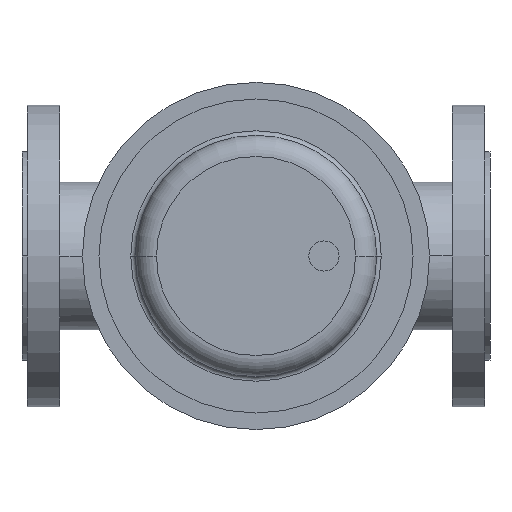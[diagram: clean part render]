
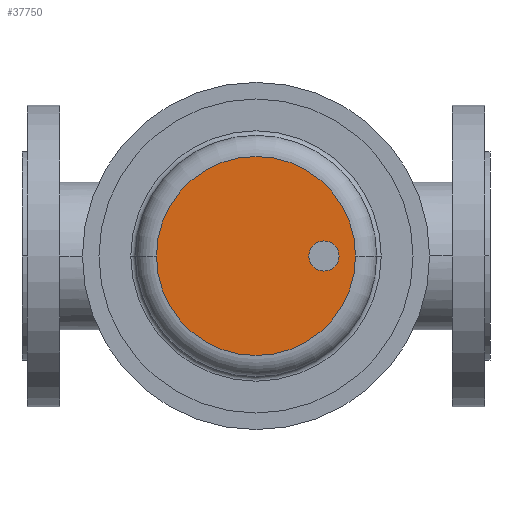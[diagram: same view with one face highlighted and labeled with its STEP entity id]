
A CAD part, front view. The second image highlights one B-rep face of the part: STEP entity #37750.
In plain terms, the highlighted planar face has unit normal (0, -1, 0).
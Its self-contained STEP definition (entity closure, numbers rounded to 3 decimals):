
#37210=CARTESIAN_POINT('',(220.93,-525.,0.));
#37220=VERTEX_POINT('',#37210);
#37250=CARTESIAN_POINT('',(155.,-525.,0.));
#37260=DIRECTION('',(0.,1.,0.));
#37270=DIRECTION('',(1.,0.,0.));
#37280=AXIS2_PLACEMENT_3D('',#37250,#37260,#37270);
#37290=CIRCLE('',#37280,65.93);
#37300=CARTESIAN_POINT('',(155.,-525.,65.93));
#37310=VERTEX_POINT('',#37300);
#37320=EDGE_CURVE('',#37310,#37220,#37290,.T.);
#37340=CARTESIAN_POINT('',(89.07,-525.,0.));
#37350=VERTEX_POINT('',#37340);
#37360=EDGE_CURVE('',#37350,#37310,#37290,.T.);
#37490=CARTESIAN_POINT('',(187.965,-525.,0.));
#37500=DIRECTION('',(0.,-1.,0.));
#37510=DIRECTION('',(-1.,0.,0.));
#37520=AXIS2_PLACEMENT_3D('',#37490,#37500,#37510);
#37530=PLANE('',#37520);
#37540=CARTESIAN_POINT('',(200.,-525.,0.));
#37550=DIRECTION('',(0.,1.,0.));
#37560=DIRECTION('',(1.,0.,0.));
#37570=AXIS2_PLACEMENT_3D('',#37540,#37550,#37560);
#37580=CIRCLE('',#37570,10.);
#37590=CARTESIAN_POINT('',(210.,-525.,0.));
#37600=VERTEX_POINT('',#37590);
#37610=CARTESIAN_POINT('',(190.,-525.,0.));
#37620=VERTEX_POINT('',#37610);
#37630=EDGE_CURVE('',#37600,#37620,#37580,.T.);
#37640=ORIENTED_EDGE('',*,*,#37630,.T.);
#37650=EDGE_CURVE('',#37620,#37600,#37580,.T.);
#37660=ORIENTED_EDGE('',*,*,#37650,.T.);
#37670=EDGE_LOOP('',(#37660,#37640));
#37680=FACE_BOUND('',#37670,.T.);
#37690=ORIENTED_EDGE('',*,*,#37320,.F.);
#37700=EDGE_CURVE('',#37220,#37350,#37290,.T.);
#37710=ORIENTED_EDGE('',*,*,#37700,.F.);
#37720=ORIENTED_EDGE('',*,*,#37360,.F.);
#37730=EDGE_LOOP('',(#37720,#37710,#37690));
#37740=FACE_OUTER_BOUND('',#37730,.T.);
#37750=ADVANCED_FACE('',(#37680,#37740),#37530,.T.);
